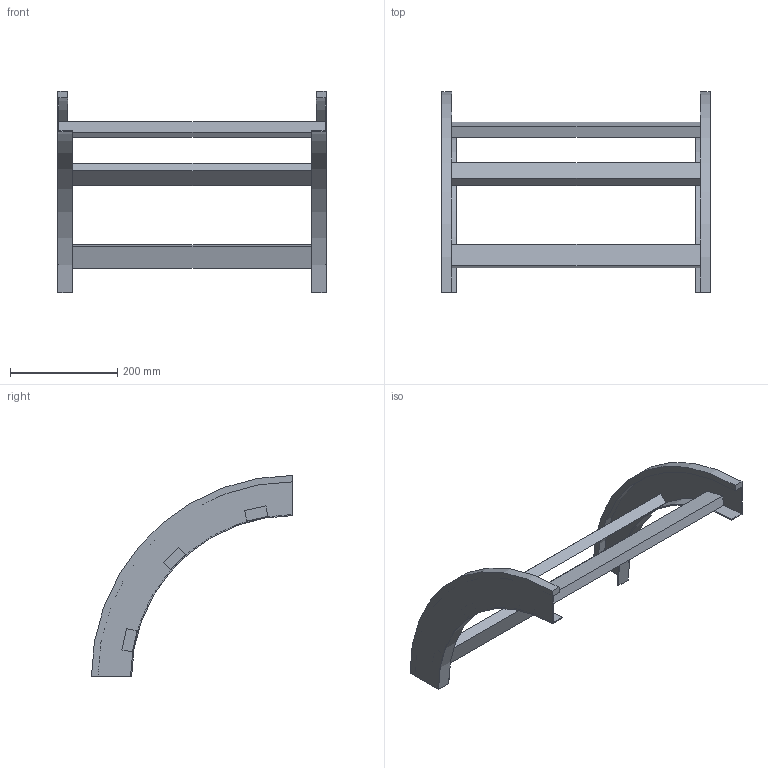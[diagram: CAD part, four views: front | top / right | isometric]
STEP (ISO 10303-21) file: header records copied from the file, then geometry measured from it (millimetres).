
FILE_DESCRIPTION (( 'STEP AP214' ), '1' );
FILE_NAME ('B2_33B3C500.step', '2025-02-21T15:06:08', ( '' ), ( '' ), 'SwSTEP 2.0', 'SolidWorks 2023', '' );
FILE_SCHEMA (( 'AUTOMOTIVE_DESIGN' ));
Length unit declared in the file: millimetre
Products named in the file (3): B2_LONGH.DISCESA_90°_H75_R300; TRAVERSINO_500; B2_33B3C500
Assembly tree (5 placements, depth 2):
  B2_33B3C500
    B2_LONGH.DISCESA_90°_H75_R300  x2
    TRAVERSINO_500  x3
Bounding box: 500 x 375 x 375 mm (x, y, z)
Volume: 1634179.7 mm3; surface area: 434137.2 mm2
Topology: 5 solids, 5 shells, 38 faces, 84 edges, 56 vertices
Faces by surface type: plane 30, cylinder 8
Entity records: 560 total; most frequent: DIRECTION 92, CARTESIAN_POINT 84, ORIENTED_EDGE 72, EDGE_CURVE 36, AXIS2_PLACEMENT_3D 32, LINE 28, VECTOR 28, VERTEX_POINT 24
